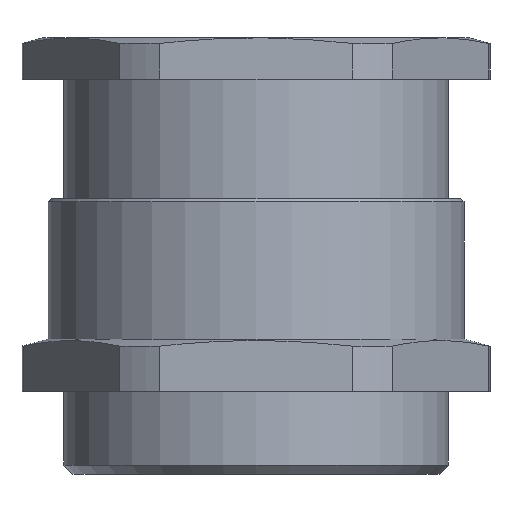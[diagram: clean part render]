
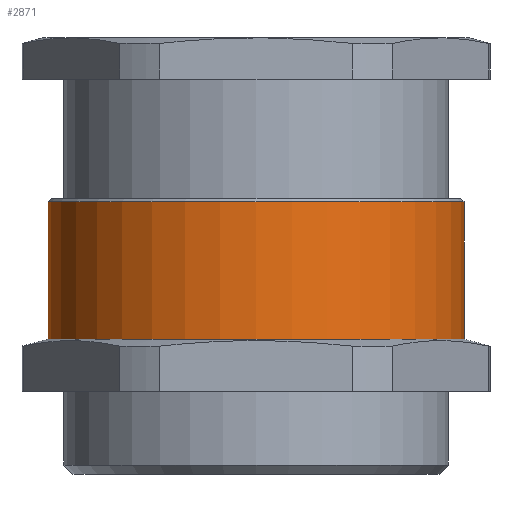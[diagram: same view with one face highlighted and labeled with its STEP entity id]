
A CAD part, left-side view. The second image highlights one B-rep face of the part: STEP entity #2871.
In plain terms, the highlighted cylindrical face has radius 20 mm (diameter 40 mm), a partial arc.
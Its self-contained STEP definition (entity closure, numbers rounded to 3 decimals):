
#421 = DIRECTION ( 'NONE',  ( 0., 0., 1. ) ) ;
#422 = VECTOR ( 'NONE', #421, 1000. ) ;
#423 = CARTESIAN_POINT ( 'NONE',  ( 0., 20., 0. ) ) ;
#457 = LINE ( 'NONE', #423, #422 ) ;
#543 = DIRECTION ( 'NONE',  ( 0., 0., 1. ) ) ;
#544 = VECTOR ( 'NONE', #543, 1000. ) ;
#545 = CARTESIAN_POINT ( 'NONE',  ( 0., -20., 0. ) ) ;
#546 = LINE ( 'NONE', #545, #544 ) ;
#551 = CARTESIAN_POINT ( 'NONE',  ( 0., 20., -13.5 ) ) ;
#552 = CARTESIAN_POINT ( 'NONE',  ( 0., -20., -13.5 ) ) ;
#762 = AXIS2_PLACEMENT_3D ( 'NONE', #772, #771, #770 ) ;
#763 = CIRCLE ( 'NONE', #762, 20. ) ;
#770 = DIRECTION ( 'NONE',  ( 0., 1., 0. ) ) ;
#771 = DIRECTION ( 'NONE',  ( 0., 0., -1. ) ) ;
#772 = CARTESIAN_POINT ( 'NONE',  ( 0., 0., -0.3 ) ) ;
#1448 = DIRECTION ( 'NONE',  ( 0., -1., 0. ) ) ;
#1449 = DIRECTION ( 'NONE',  ( 0., 0., 1. ) ) ;
#1450 = AXIS2_PLACEMENT_3D ( 'NONE', #1457, #1449, #1448 ) ;
#1451 = CIRCLE ( 'NONE', #1450, 20. ) ;
#1457 = CARTESIAN_POINT ( 'NONE',  ( 0., 0., -13.5 ) ) ;
#1473 = CARTESIAN_POINT ( 'NONE',  ( 0., 20., -0.3 ) ) ;
#1474 = CARTESIAN_POINT ( 'NONE',  ( 0., -20., -0.3 ) ) ;
#1817 = DIRECTION ( 'NONE',  ( 0., -1., 0. ) ) ;
#1818 = DIRECTION ( 'NONE',  ( 0., 0., 1. ) ) ;
#1819 = CARTESIAN_POINT ( 'NONE',  ( 0., 0., 0. ) ) ;
#1820 = AXIS2_PLACEMENT_3D ( 'NONE', #1819, #1818, #1817 ) ;
#1822 = CYLINDRICAL_SURFACE ( 'NONE', #1820, 20. ) ;
#1823 = FACE_OUTER_BOUND ( 'NONE', #2872, .T. ) ;
#2156 = EDGE_CURVE ( 'NONE', #2181, #2697, #457, .T. ) ;
#2166 = EDGE_CURVE ( 'NONE', #2180, #2695, #546, .T. ) ;
#2180 = VERTEX_POINT ( 'NONE', #552 ) ;
#2181 = VERTEX_POINT ( 'NONE', #551 ) ;
#2272 = ORIENTED_EDGE ( 'NONE', *, *, #2166, .T. ) ;
#2273 = ORIENTED_EDGE ( 'NONE', *, *, #2274, .T. ) ;
#2274 = EDGE_CURVE ( 'NONE', #2695, #2697, #763, .T. ) ;
#2641 = EDGE_CURVE ( 'NONE', #2181, #2180, #1451, .T. ) ;
#2695 = VERTEX_POINT ( 'NONE', #1474 ) ;
#2697 = VERTEX_POINT ( 'NONE', #1473 ) ;
#2871 = ADVANCED_FACE ( 'NONE', ( #1823 ), #1822, .T. ) ;
#2872 = EDGE_LOOP ( 'NONE', ( #2873, #2874, #2272, #2273 ) ) ;
#2873 = ORIENTED_EDGE ( 'NONE', *, *, #2156, .F. ) ;
#2874 = ORIENTED_EDGE ( 'NONE', *, *, #2641, .T. ) ;
